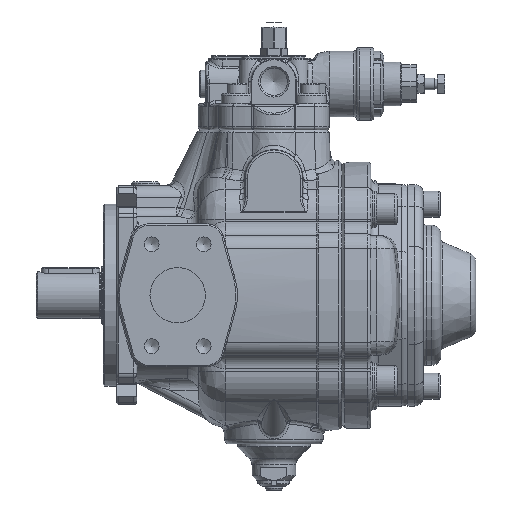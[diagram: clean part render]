
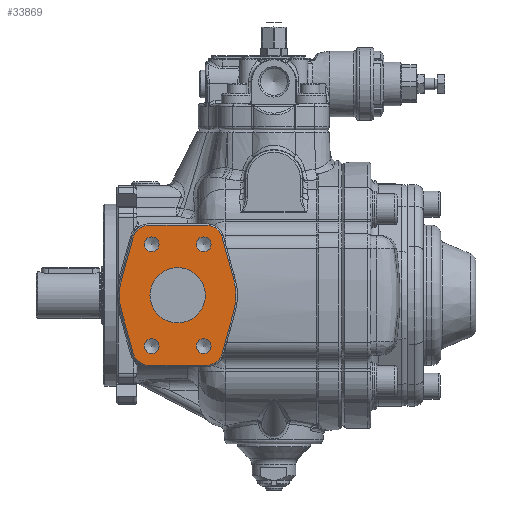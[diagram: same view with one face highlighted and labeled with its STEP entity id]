
A CAD part, left-side view. The second image highlights one B-rep face of the part: STEP entity #33869.
In plain terms, the highlighted planar face has unit normal (-1, 0, 0).
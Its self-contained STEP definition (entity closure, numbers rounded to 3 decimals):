
#595=FACE_BOUND('',#8577,.T.);
#596=FACE_BOUND('',#8578,.T.);
#597=FACE_BOUND('',#8579,.T.);
#598=FACE_BOUND('',#8580,.T.);
#599=FACE_BOUND('',#8581,.T.);
#2424=LINE('',#58372,#4086);
#2429=LINE('',#58386,#4091);
#2433=LINE('',#58400,#4095);
#2437=LINE('',#58412,#4099);
#2441=LINE('',#58424,#4103);
#2445=LINE('',#58436,#4107);
#4086=VECTOR('',#43265,10.);
#4091=VECTOR('',#43278,10.);
#4095=VECTOR('',#43292,10.);
#4099=VECTOR('',#43304,10.);
#4103=VECTOR('',#43316,10.);
#4107=VECTOR('',#43328,10.);
#5275=PLANE('',#36923);
#6504=FACE_OUTER_BOUND('',#8576,.T.);
#8576=EDGE_LOOP('',(#25511,#25512,#25513,#25514,#25515,#25516,#25517,#25518,
#25519,#25520,#25521,#25522));
#8577=EDGE_LOOP('',(#25523));
#8578=EDGE_LOOP('',(#25524,#25525));
#8579=EDGE_LOOP('',(#25526,#25527));
#8580=EDGE_LOOP('',(#25528,#25529));
#8581=EDGE_LOOP('',(#25530,#25531));
#11720=CIRCLE('',#36888,11.);
#11722=CIRCLE('',#36892,40.);
#11725=CIRCLE('',#36897,11.);
#11727=CIRCLE('',#36901,11.);
#11729=CIRCLE('',#36905,40.);
#11731=CIRCLE('',#36909,11.);
#11736=CIRCLE('',#36924,19.);
#11737=CIRCLE('',#36925,5.053);
#11738=CIRCLE('',#36926,5.053);
#11739=CIRCLE('',#36927,5.053);
#11740=CIRCLE('',#36928,5.053);
#11741=CIRCLE('',#36929,5.053);
#11742=CIRCLE('',#36930,5.053);
#11743=CIRCLE('',#36931,5.053);
#11744=CIRCLE('',#36932,5.053);
#14209=VERTEX_POINT('',#58369);
#14210=VERTEX_POINT('',#58371);
#14213=VERTEX_POINT('',#58378);
#14215=VERTEX_POINT('',#58384);
#14217=VERTEX_POINT('',#58390);
#14220=VERTEX_POINT('',#58398);
#14222=VERTEX_POINT('',#58404);
#14224=VERTEX_POINT('',#58410);
#14226=VERTEX_POINT('',#58416);
#14228=VERTEX_POINT('',#58422);
#14230=VERTEX_POINT('',#58428);
#14232=VERTEX_POINT('',#58434);
#14272=VERTEX_POINT('',#58642);
#14273=VERTEX_POINT('',#58644);
#14274=VERTEX_POINT('',#58645);
#14275=VERTEX_POINT('',#58648);
#14276=VERTEX_POINT('',#58649);
#14277=VERTEX_POINT('',#58652);
#14278=VERTEX_POINT('',#58653);
#14279=VERTEX_POINT('',#58656);
#14280=VERTEX_POINT('',#58657);
#18151=EDGE_CURVE('',#14209,#14210,#2424,.T.);
#18155=EDGE_CURVE('',#14213,#14209,#11720,.T.);
#18158=EDGE_CURVE('',#14215,#14213,#2429,.T.);
#18161=EDGE_CURVE('',#14217,#14215,#11722,.T.);
#18165=EDGE_CURVE('',#14220,#14217,#2433,.T.);
#18168=EDGE_CURVE('',#14222,#14220,#11725,.T.);
#18171=EDGE_CURVE('',#14224,#14222,#2437,.T.);
#18174=EDGE_CURVE('',#14226,#14224,#11727,.T.);
#18177=EDGE_CURVE('',#14228,#14226,#2441,.T.);
#18180=EDGE_CURVE('',#14230,#14228,#11729,.T.);
#18183=EDGE_CURVE('',#14232,#14230,#2445,.T.);
#18185=EDGE_CURVE('',#14210,#14232,#11731,.T.);
#18233=EDGE_CURVE('',#14272,#14272,#11736,.T.);
#18234=EDGE_CURVE('',#14273,#14274,#11737,.T.);
#18235=EDGE_CURVE('',#14274,#14273,#11738,.T.);
#18236=EDGE_CURVE('',#14275,#14276,#11739,.T.);
#18237=EDGE_CURVE('',#14276,#14275,#11740,.T.);
#18238=EDGE_CURVE('',#14277,#14278,#11741,.T.);
#18239=EDGE_CURVE('',#14278,#14277,#11742,.T.);
#18240=EDGE_CURVE('',#14279,#14280,#11743,.T.);
#18241=EDGE_CURVE('',#14280,#14279,#11744,.T.);
#25511=ORIENTED_EDGE('',*,*,#18151,.F.);
#25512=ORIENTED_EDGE('',*,*,#18155,.F.);
#25513=ORIENTED_EDGE('',*,*,#18158,.F.);
#25514=ORIENTED_EDGE('',*,*,#18161,.F.);
#25515=ORIENTED_EDGE('',*,*,#18165,.F.);
#25516=ORIENTED_EDGE('',*,*,#18168,.F.);
#25517=ORIENTED_EDGE('',*,*,#18171,.F.);
#25518=ORIENTED_EDGE('',*,*,#18174,.F.);
#25519=ORIENTED_EDGE('',*,*,#18177,.F.);
#25520=ORIENTED_EDGE('',*,*,#18180,.F.);
#25521=ORIENTED_EDGE('',*,*,#18183,.F.);
#25522=ORIENTED_EDGE('',*,*,#18185,.F.);
#25523=ORIENTED_EDGE('',*,*,#18233,.T.);
#25524=ORIENTED_EDGE('',*,*,#18234,.T.);
#25525=ORIENTED_EDGE('',*,*,#18235,.T.);
#25526=ORIENTED_EDGE('',*,*,#18236,.T.);
#25527=ORIENTED_EDGE('',*,*,#18237,.T.);
#25528=ORIENTED_EDGE('',*,*,#18238,.T.);
#25529=ORIENTED_EDGE('',*,*,#18239,.T.);
#25530=ORIENTED_EDGE('',*,*,#18240,.T.);
#25531=ORIENTED_EDGE('',*,*,#18241,.T.);
#33869=ADVANCED_FACE('',(#6504,#595,#596,#597,#598,#599),#5275,.F.);
#36888=AXIS2_PLACEMENT_3D('',#58380,#43271,#43272);
#36892=AXIS2_PLACEMENT_3D('',#58392,#43283,#43284);
#36897=AXIS2_PLACEMENT_3D('',#58406,#43297,#43298);
#36901=AXIS2_PLACEMENT_3D('',#58418,#43309,#43310);
#36905=AXIS2_PLACEMENT_3D('',#58430,#43321,#43322);
#36909=AXIS2_PLACEMENT_3D('',#58439,#43332,#43333);
#36923=AXIS2_PLACEMENT_3D('',#58641,#43375,#43376);
#36924=AXIS2_PLACEMENT_3D('',#58643,#43377,#43378);
#36925=AXIS2_PLACEMENT_3D('',#58646,#43379,#43380);
#36926=AXIS2_PLACEMENT_3D('',#58647,#43381,#43382);
#36927=AXIS2_PLACEMENT_3D('',#58650,#43383,#43384);
#36928=AXIS2_PLACEMENT_3D('',#58651,#43385,#43386);
#36929=AXIS2_PLACEMENT_3D('',#58654,#43387,#43388);
#36930=AXIS2_PLACEMENT_3D('',#58655,#43389,#43390);
#36931=AXIS2_PLACEMENT_3D('',#58658,#43391,#43392);
#36932=AXIS2_PLACEMENT_3D('',#58659,#43393,#43394);
#43265=DIRECTION('',(0.,1.,0.));
#43271=DIRECTION('center_axis',(1.,0.,0.));
#43272=DIRECTION('ref_axis',(0.,-0.964,-0.267));
#43278=DIRECTION('',(0.,0.267,-0.964));
#43283=DIRECTION('center_axis',(1.,0.,0.));
#43284=DIRECTION('ref_axis',(0.,-0.964,0.267));
#43292=DIRECTION('',(0.,-0.267,-0.964));
#43297=DIRECTION('center_axis',(1.,0.,0.));
#43298=DIRECTION('ref_axis',(0.,0.,1.));
#43304=DIRECTION('',(0.,-1.,0.));
#43309=DIRECTION('center_axis',(1.,0.,0.));
#43310=DIRECTION('ref_axis',(0.,0.964,0.267));
#43316=DIRECTION('',(0.,-0.267,0.964));
#43321=DIRECTION('center_axis',(1.,0.,0.));
#43322=DIRECTION('ref_axis',(0.,0.964,-0.267));
#43328=DIRECTION('',(0.,0.267,0.964));
#43332=DIRECTION('center_axis',(1.,0.,0.));
#43333=DIRECTION('ref_axis',(0.,0.,-1.));
#43375=DIRECTION('center_axis',(1.,0.,0.));
#43376=DIRECTION('ref_axis',(0.,0.,-1.));
#43377=DIRECTION('center_axis',(1.,0.,0.));
#43378=DIRECTION('ref_axis',(0.,-1.,0.));
#43379=DIRECTION('center_axis',(1.,0.,0.));
#43380=DIRECTION('ref_axis',(0.,0.,1.));
#43381=DIRECTION('center_axis',(1.,0.,0.));
#43382=DIRECTION('ref_axis',(0.,0.,1.));
#43383=DIRECTION('center_axis',(1.,0.,0.));
#43384=DIRECTION('ref_axis',(0.,0.,1.));
#43385=DIRECTION('center_axis',(1.,0.,0.));
#43386=DIRECTION('ref_axis',(0.,0.,1.));
#43387=DIRECTION('center_axis',(1.,0.,0.));
#43388=DIRECTION('ref_axis',(0.,0.,1.));
#43389=DIRECTION('center_axis',(1.,0.,0.));
#43390=DIRECTION('ref_axis',(0.,0.,1.));
#43391=DIRECTION('center_axis',(1.,0.,0.));
#43392=DIRECTION('ref_axis',(0.,0.,1.));
#43393=DIRECTION('center_axis',(1.,0.,0.));
#43394=DIRECTION('ref_axis',(0.,0.,1.));
#58369=CARTESIAN_POINT('',(-98.542,9.928,-57.476));
#58371=CARTESIAN_POINT('',(-98.542,49.628,-57.476));
#58372=CARTESIAN_POINT('',(-98.542,19.853,-57.476));
#58378=CARTESIAN_POINT('',(-98.542,-0.673,-49.41));
#58380=CARTESIAN_POINT('Origin',(-98.542,9.928,-46.476));
#58384=CARTESIAN_POINT('',(-98.542,-8.772,-20.145));
#58386=CARTESIAN_POINT('',(-98.542,-8.772,-20.145));
#58390=CARTESIAN_POINT('',(-98.542,-8.772,1.194));
#58392=CARTESIAN_POINT('Origin',(-98.542,29.778,-9.476));
#58398=CARTESIAN_POINT('',(-98.542,-0.673,30.458));
#58400=CARTESIAN_POINT('',(-98.542,-4.723,15.826));
#58404=CARTESIAN_POINT('',(-98.542,9.928,38.524));
#58406=CARTESIAN_POINT('Origin',(-98.542,9.928,27.524));
#58410=CARTESIAN_POINT('',(-98.542,49.628,38.524));
#58412=CARTESIAN_POINT('',(-98.542,39.703,38.524));
#58416=CARTESIAN_POINT('',(-98.542,60.23,30.458));
#58418=CARTESIAN_POINT('Origin',(-98.542,49.628,27.524));
#58422=CARTESIAN_POINT('',(-98.542,68.329,1.194));
#58424=CARTESIAN_POINT('',(-98.542,68.329,1.194));
#58428=CARTESIAN_POINT('',(-98.542,68.329,-20.145));
#58430=CARTESIAN_POINT('Origin',(-98.542,29.778,-9.476));
#58434=CARTESIAN_POINT('',(-98.542,60.23,-49.41));
#58436=CARTESIAN_POINT('',(-98.542,64.279,-34.777));
#58439=CARTESIAN_POINT('Origin',(-98.542,49.628,-46.476));
#58641=CARTESIAN_POINT('Origin',(-98.542,29.778,-9.476));
#58642=CARTESIAN_POINT('',(-98.542,48.778,-9.476));
#58643=CARTESIAN_POINT('Origin',(-98.542,29.778,-9.476));
#58644=CARTESIAN_POINT('',(-98.542,47.628,-39.373));
#58645=CARTESIAN_POINT('',(-98.542,47.628,-49.479));
#58646=CARTESIAN_POINT('Origin',(-98.542,47.628,-44.426));
#58647=CARTESIAN_POINT('Origin',(-98.542,47.628,-44.426));
#58648=CARTESIAN_POINT('',(-98.542,11.928,30.527));
#58649=CARTESIAN_POINT('',(-98.542,11.928,20.421));
#58650=CARTESIAN_POINT('Origin',(-98.542,11.928,25.474));
#58651=CARTESIAN_POINT('Origin',(-98.542,11.928,25.474));
#58652=CARTESIAN_POINT('',(-98.542,47.628,30.527));
#58653=CARTESIAN_POINT('',(-98.542,47.628,20.421));
#58654=CARTESIAN_POINT('Origin',(-98.542,47.628,25.474));
#58655=CARTESIAN_POINT('Origin',(-98.542,47.628,25.474));
#58656=CARTESIAN_POINT('',(-98.542,11.928,-39.373));
#58657=CARTESIAN_POINT('',(-98.542,11.928,-49.479));
#58658=CARTESIAN_POINT('Origin',(-98.542,11.928,-44.426));
#58659=CARTESIAN_POINT('Origin',(-98.542,11.928,-44.426));
